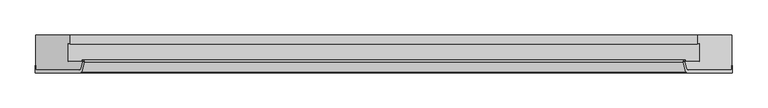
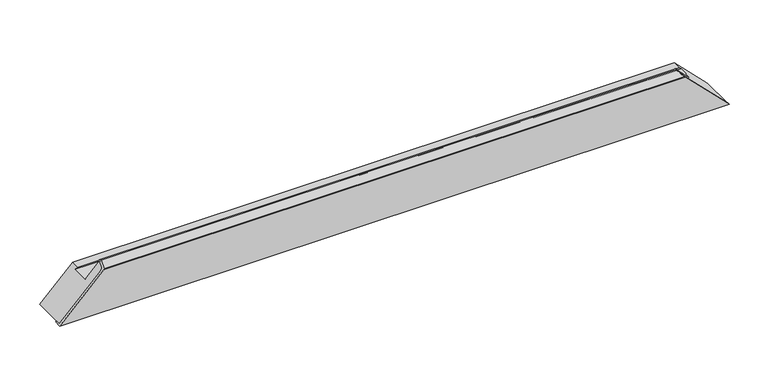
"""IFC4 building model written with IfcOpenShell, lengths in millimetres: proxy geometry, Weiku - Montante - Caixilho 02.2.01.005 : Weiku - Montante - Caixilho 02.2.01.005."""

from ifc_helpers import new_model, si_unit, frame, origin, place, context, project, spatial, polyline, ellipse_curve, source, transform, mapped, element, save
from ifc_brep_helpers import plane_surface, cylinder_surface, revolved_surface, advanced_brep


def generic_models_d5d58390(model_context):
    return source(origin(), model_context, "Body", "AdvancedBrep", [
        advanced_brep(
        [(430.9663236, -4.0, 64.0336764), (496.0, -4.0, -1.0), (496.0, 6.4862095, -1.0), (495.0, 6.4862095, 0.0), (495.0, 0.0, 0.0), (433.4997332, 0.0, 61.5002668), (430.6019557, 2.2235429, 64.3980443), (428.118227, 11.4929448, 66.881773), (428.8909676, 12.5, 66.1090324), (428.8909676, 14.5, 66.1090324), (426.1863753, 10.9753067, 68.8136247), (430.0003978, -3.258819, 64.9996022), (-496.0, -4.0, -1.0), (-430.9663236, -4.0, 64.0336764), (-430.0003978, -3.258819, 64.9996022), (-426.1863753, 10.9753067, 68.8136247), (-428.8909676, 14.5, 66.1090324), (-428.8909676, 12.5, 66.1090324), (-428.118227, 11.4929448, 66.881773), (-430.6019557, 2.2235429, 64.3980443), (-433.4997332, 0.0, 61.5002668), (-495.0, 0.0, 0.0), (-495.0, 6.4862095, 0.0), (-496.0, 6.4862095, -1.0)],
        [
            (0, 1),
            (1, 2),
            (2, 3),
            (3, 4),
            (4, 5),
            (5, 6, ellipse_curve(frame((433.4997332, 3.0, 61.5002668), z_axis=(-0.707106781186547, 0.0, -0.7071067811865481), x_axis=(0.7071067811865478, 0.0, -0.707106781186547)), 4.2426407, 3.0)),
            (6, 7),
            (7, 8, ellipse_curve(frame((428.8909676, 11.7, 66.1090324), z_axis=(-0.707106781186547, 0.0, -0.7071067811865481), x_axis=(0.7071067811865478, 0.0, -0.707106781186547)), 1.1313708, 0.8)),
            (8, 9),
            (9, 10, ellipse_curve(frame((428.8909676, 11.7, 66.1090324), z_axis=(0.707106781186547, 0.0, 0.7071067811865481), x_axis=(-0.7071067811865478, 0.0, 0.707106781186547)), 3.959798, 2.8)),
            (10, 11),
            (11, 0, ellipse_curve(frame((430.9663236, -3.0, 64.0336764), z_axis=(0.707106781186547, 0.0, 0.7071067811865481), x_axis=(-0.7071067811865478, 0.0, 0.707106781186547)), 1.4142136, 1.0)),
            (12, 13),
            (13, 14, ellipse_curve(frame((-430.9663236, -3.0, 64.0336764), z_axis=(-0.707106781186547, 0.0, 0.707106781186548), x_axis=(-0.7071067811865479, 0.0, -0.707106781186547)), 1.4142136, 1.0)),
            (14, 15),
            (15, 16, ellipse_curve(frame((-428.8909676, 11.7, 66.1090324), z_axis=(-0.707106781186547, 0.0, 0.707106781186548), x_axis=(-0.7071067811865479, 0.0, -0.707106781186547)), 3.959798, 2.8)),
            (16, 17),
            (17, 18, ellipse_curve(frame((-428.8909676, 11.7, 66.1090324), z_axis=(0.707106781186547, 0.0, -0.707106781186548), x_axis=(0.7071067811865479, 0.0, 0.707106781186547)), 1.1313708, 0.8)),
            (18, 19),
            (19, 20, ellipse_curve(frame((-433.4997332, 3.0, 61.5002668), z_axis=(0.707106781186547, 0.0, -0.707106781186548), x_axis=(0.7071067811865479, 0.0, 0.707106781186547)), 4.2426407, 3.0)),
            (20, 21),
            (21, 22),
            (22, 23),
            (23, 12),
            (0, 13),
            (12, 1),
            (11, 14),
            (10, 15),
            (9, 16),
            (8, 17),
            (7, 18),
            (6, 19),
            (5, 20),
            (4, 21),
            (3, 22),
            (2, 23),
        ],
        [
            plane_surface(frame((425.0, -15.0, 70.0), z_axis=(0.707106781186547, 0.0, 0.7071067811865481), x_axis=(0.0, 1.0, 0.0))),
            plane_surface(frame((-565.0, -15.0, -70.0), z_axis=(-0.707106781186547, 0.0, 0.707106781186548), x_axis=(0.0, 1.0, 0.0))),
            plane_surface(frame((-497.8284271, -4.0, -1.0), z_axis=(0.0, -1.0, 0.0), x_axis=(1.0, 0.0, 0.0))),
            cylinder_surface(frame((-497.8284271, -3.0, 64.0336764), z_axis=(-1.0, 0.0, 0.0), x_axis=(0.0, 1.0, 0.0)), 1.0),
            plane_surface(frame((-497.8284271, -3.258819, 64.9996022), z_axis=(0.0, -0.25881904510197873, 0.9659258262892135), x_axis=(1.0, 0.0, 0.0))),
            cylinder_surface(frame((-497.8284271, 11.7, 66.1090324), z_axis=(-1.0, 0.0, 0.0), x_axis=(0.0, 1.0, 0.0)), 2.8),
            plane_surface(frame((-497.8284271, 14.5, 66.1090324), z_axis=(0.0, 0.0, -1.0), x_axis=(1.0, 0.0, 0.0))),
            revolved_surface(polyline([(429.6909675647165, 12.5, 66.1090324), (-429.69096756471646, 12.5, 66.1090324)]), (-497.8284271, 11.7, 66.1090324), (1.0, 0.0, 0.0)),
            plane_surface(frame((-497.8284271, 11.4929448, 66.881773), z_axis=(0.0, 0.2588190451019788, -0.9659258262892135), x_axis=(1.0, 0.0, 0.0))),
            revolved_surface(polyline([(436.49973320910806, 6.0, 61.5002668), (-436.499733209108, 6.0, 61.5002668)]), (-497.8284271, 3.0, 61.5002668), (1.0, 0.0, 0.0)),
            plane_surface(frame((-497.8284271, 0.0, 61.5002668), z_axis=(0.0, 1.0, 0.0), x_axis=(1.0, 0.0, 0.0))),
            plane_surface(frame((-497.8284271, 0.0, 0.0), z_axis=(0.0, 0.0, 1.0), x_axis=(1.0, 0.0, 0.0))),
            plane_surface(frame((-497.8284271, 6.4862095, 0.0), z_axis=(0.0, 1.0, 0.0), x_axis=(1.0, 0.0, 0.0))),
            plane_surface(frame((-497.8284271, 6.4862095, -1.0), z_axis=(0.0, 0.0, -1.0), x_axis=(1.0, 0.0, 0.0))),
        ],
        [
            (0, [[1, 2, 3, 4, 5, 6, 7, 8, 9, 10, 11, 12]]),
            (1, [[13, 14, 15, 16, 17, 18, 19, 20, 21, 22, 23, 24]]),
            (2, [[-1, 25, -13, 26]]),
            (3, [[-12, 27, -14, -25]]),
            (4, [[-11, 28, -15, -27]]),
            (5, [[-10, 29, -16, -28]]),
            (6, [[-9, 30, -17, -29]]),
            (7, [[-8, 31, -18, -30]]),
            (8, [[-7, 32, -19, -31]]),
            (9, [[-6, 33, -20, -32]]),
            (10, [[-5, 34, -21, -33]]),
            (11, [[-4, 35, -22, -34]]),
            (12, [[-3, 36, -23, -35]]),
            (13, [[-2, -26, -24, -36]]),
        ],
    ),
        advanced_brep(
        [(-449.0, 12.5, 46.0), (-428.8909676, 12.5, 66.1090324), (428.8909676, 12.5, 66.1090324), (449.0, 12.5, 46.0), (-449.0, 37.8314286, 46.0), (449.0, 37.8314286, 46.0), (-446.0, 37.027581, 49.0), (446.0, 37.027581, 49.0), (-446.0, 50.0, 49.0), (446.0, 50.0, 49.0), (495.0, 50.0, 0.0), (-495.0, 50.0, 0.0), (495.0, 0.0, 0.0), (-495.0, 0.0, 0.0), (433.4997332, 0.0, 61.5002668), (-433.4997332, 0.0, 61.5002668), (-428.118227, 11.4929448, 66.881773), (-430.6019557, 2.2235429, 64.3980443), (430.6019557, 2.2235429, 64.3980443), (428.118227, 11.4929448, 66.881773)],
        [
            (0, 1),
            (1, 2),
            (2, 3),
            (3, 0),
            (4, 0),
            (3, 5),
            (5, 4),
            (6, 4),
            (5, 7),
            (7, 6),
            (8, 6),
            (7, 9),
            (9, 8),
            (10, 11),
            (11, 8),
            (9, 10),
            (10, 12),
            (12, 13),
            (13, 11),
            (12, 14),
            (14, 15),
            (15, 13),
            (16, 17),
            (17, 18),
            (18, 19),
            (19, 16),
            (15, 17, ellipse_curve(frame((-433.4997332, 3.0, 61.5002668), z_axis=(-0.707106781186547, 0.0, 0.707106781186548), x_axis=(-0.7071067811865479, 0.0, -0.707106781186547)), 4.2426407, 3.0)),
            (16, 1, ellipse_curve(frame((-428.8909676, 11.7, 66.1090324), z_axis=(-0.707106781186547, 0.0, 0.707106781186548), x_axis=(-0.7071067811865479, 0.0, -0.707106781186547)), 1.1313708, 0.8)),
            (2, 19, ellipse_curve(frame((428.8909676, 11.7, 66.1090324), z_axis=(0.707106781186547, 0.0, 0.7071067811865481), x_axis=(-0.7071067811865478, 0.0, 0.707106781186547)), 1.1313708, 0.8)),
            (18, 14, ellipse_curve(frame((433.4997332, 3.0, 61.5002668), z_axis=(0.707106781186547, 0.0, 0.7071067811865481), x_axis=(-0.7071067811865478, 0.0, 0.707106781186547)), 4.2426407, 3.0)),
        ],
        [
            plane_surface(frame((-495.0, 12.5, 66.1090324), z_axis=(0.0, 1.0, 0.0), x_axis=(1.0, 0.0, 0.0))),
            plane_surface(frame((-495.0, 12.5, 46.0), z_axis=(0.0, 0.0, 1.0), x_axis=(1.0, 0.0, 0.0))),
            plane_surface(frame((-495.0, 37.8314286, 46.0), z_axis=(0.0, -0.9659258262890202, -0.2588190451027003), x_axis=(1.0, 0.0, 0.0))),
            plane_surface(frame((-495.0, 37.027581, 49.0), z_axis=(0.0, 0.0, 1.0), x_axis=(1.0, 0.0, 0.0))),
            plane_surface(frame((-495.0, 50.0, 49.0), z_axis=(0.0, 1.0, 0.0), x_axis=(1.0, 0.0, 0.0))),
            plane_surface(frame((-495.0, 50.0, 0.0), z_axis=(0.0, 0.0, -1.0), x_axis=(1.0, 0.0, 0.0))),
            plane_surface(frame((-495.0, 0.0, 0.0), z_axis=(0.0, -1.0, 0.0), x_axis=(1.0, 0.0, 0.0))),
            plane_surface(frame((-495.0, 2.2235429, 64.3980443), z_axis=(0.0, -0.2588190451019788, 0.9659258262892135), x_axis=(1.0, 0.0, 0.0))),
            plane_surface(frame((-565.0, -15.0, -70.0), z_axis=(-0.707106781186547, 0.0, 0.707106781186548), x_axis=(0.0, 1.0, 0.0))),
            plane_surface(frame((425.0, -15.0, 70.0), z_axis=(0.707106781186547, 0.0, 0.7071067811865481), x_axis=(0.0, 1.0, 0.0))),
            cylinder_surface(frame((-495.0, 11.7, 66.1090324), z_axis=(-1.0, 0.0, 0.0), x_axis=(0.0, 1.0, 0.0)), 0.8),
            cylinder_surface(frame((-495.0, 3.0, 61.5002668), z_axis=(-1.0, 0.0, 0.0), x_axis=(0.0, 1.0, 0.0)), 3.0),
        ],
        [
            (0, [[1, 2, 3, 4]]),
            (1, [[5, -4, 6, 7]]),
            (2, [[8, -7, 9, 10]]),
            (3, [[11, -10, 12, 13]]),
            (4, [[14, 15, -13, 16]]),
            (5, [[-14, 17, 18, 19]]),
            (6, [[-18, 20, 21, 22]]),
            (7, [[23, 24, 25, 26]]),
            (8, [[-1, -5, -8, -11, -15, -19, -22, 27, -23, 28]]),
            (9, [[-3, 29, -25, 30, -20, -17, -16, -12, -9, -6]]),
            (10, [[-28, -26, -29, -2]]),
            (11, [[-27, -21, -30, -24]]),
        ],
    ),
    ])


if __name__ == "__main__":
    model = new_model("IFC4")
    model_context = context("Model", 3, world=origin())
    ifc_project = project(units=[si_unit("LENGTHUNIT", "METRE", prefix="MILLI")], contexts=[model_context])
    site = spatial("IfcSite", under=ifc_project)
    building = spatial("IfcBuilding", under=site)
    placement = place(None, origin())
    generic_models_shape = generic_models_d5d58390(model_context)
    element("IfcBuildingElementProxy", 1, Name="Weiku - Montante - Caixilho 02.2.01.005 : Weiku - Montante - Caixilho 02.2.01.005", ObjectType="Weiku - Montante - Caixilho 02.2.01.005 : Weiku - Montante - Caixilho 02.2.01.005", at=placement, inside=building, context=model_context, shape_type="MappedRepresentation", body=[
        mapped(generic_models_shape, transform((0.0, 0.0, 0.0), x_axis=(1.0, 0.0, 0.0), y_axis=(0.0, 1.0, 0.0), z_axis=(0.0, 0.0, 1.0))),
    ])
    save(model, "model.ifc")
